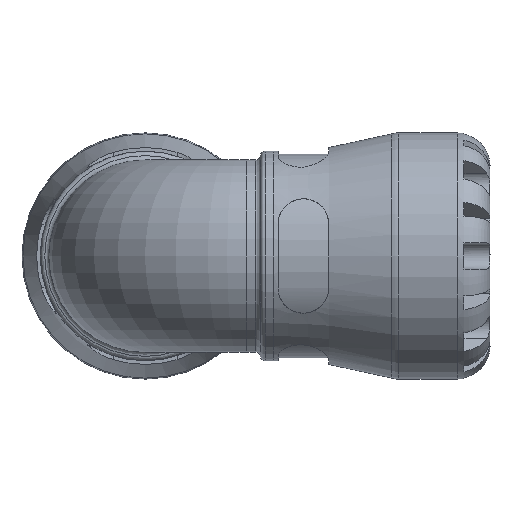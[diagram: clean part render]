
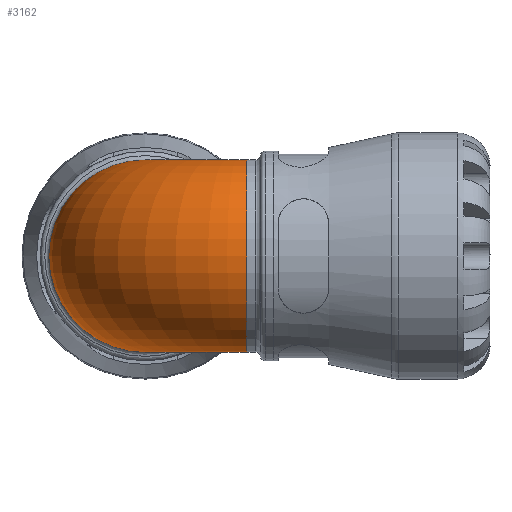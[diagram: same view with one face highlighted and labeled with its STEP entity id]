
A CAD part, front view. The second image highlights one B-rep face of the part: STEP entity #3162.
In plain terms, the highlighted toroidal (fillet/blend) face has major radius 35.057 mm and minor radius 33.15 mm.
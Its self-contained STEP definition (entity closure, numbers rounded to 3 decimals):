
#647=FACE_BOUND('',#881,.T.);
#683=FACE_OUTER_BOUND('',#880,.T.);
#880=EDGE_LOOP('',(#2038));
#881=EDGE_LOOP('',(#2039));
#1112=CIRCLE('',#3363,33.15);
#1113=CIRCLE('',#3364,33.15);
#1282=VERTEX_POINT('',#4626);
#1283=VERTEX_POINT('',#4628);
#1580=EDGE_CURVE('',#1282,#1282,#1112,.T.);
#1581=EDGE_CURVE('',#1283,#1283,#1113,.T.);
#2038=ORIENTED_EDGE('',*,*,#1580,.F.);
#2039=ORIENTED_EDGE('',*,*,#1581,.F.);
#2953=TOROIDAL_SURFACE('',#3362,35.058,33.15);
#3162=ADVANCED_FACE('',(#683,#647),#2953,.T.);
#3362=AXIS2_PLACEMENT_3D('',#4625,#3733,#3734);
#3363=AXIS2_PLACEMENT_3D('',#4627,#3735,#3736);
#3364=AXIS2_PLACEMENT_3D('',#4629,#3737,#3738);
#3733=DIRECTION('center_axis',(0.,0.,1.));
#3734=DIRECTION('ref_axis',(1.,0.,0.));
#3735=DIRECTION('center_axis',(1.,0.,0.));
#3736=DIRECTION('ref_axis',(0.,0.,-1.));
#3737=DIRECTION('center_axis',(0.,1.,0.));
#3738=DIRECTION('ref_axis',(0.,0.,-1.));
#4625=CARTESIAN_POINT('Origin',(35.058,35.058,0.));
#4626=CARTESIAN_POINT('',(35.058,33.15,0.));
#4627=CARTESIAN_POINT('Origin',(35.058,0.,0.));
#4628=CARTESIAN_POINT('',(0.,35.058,-33.15));
#4629=CARTESIAN_POINT('Origin',(0.,35.058,0.));
